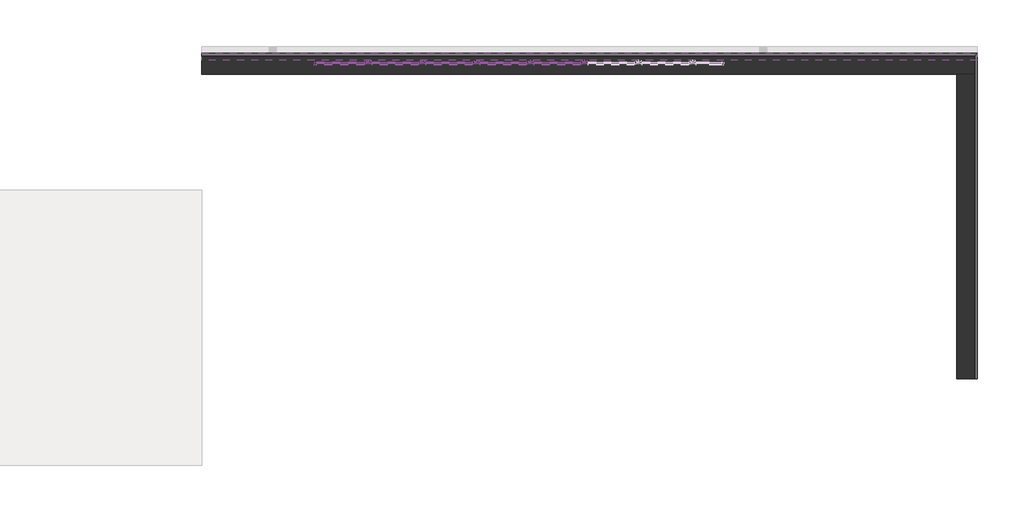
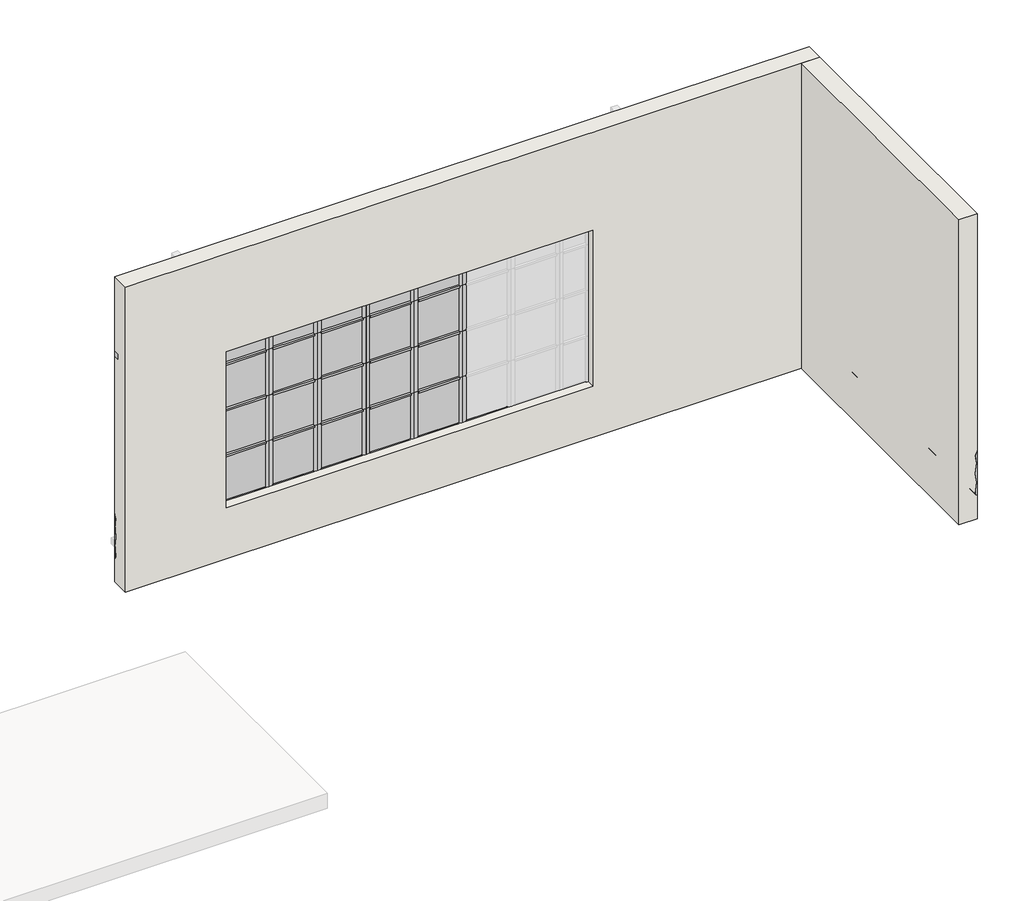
# One storey, part 1 of 2: 50 members, 20 plates, 3 proxies, 2 walls.
"""IFC4 building model written with IfcOpenShell, lengths in millimetres."""

from ifc_helpers import new_model, si_unit, point, frame, frame_2d, origin, place, context, project, spatial, polyline, circle_curve, ellipse_curve, trimmed, segment, composite_curve, outline, extrude, transform, mapped, element, save
from ifc_brep_helpers import plane_surface, cylinder_surface, revolved_surface, advanced_brep
from components import member_019d2a25, member_3923b022, member_f6eef321, member_bfa8bbc5, member_5f8e5638, member_5c61a606, member_4463d2a1, member_90bb8290, plate_2a94339a, plate_97cba745, plate_a68f3988, plate_4467079a, plate_a56ebe65, plate_6a8ce772

model = new_model("IFC4")

# Units and contexts
model_context = context("Model", 3, world=origin())
ifc_project = project(units=[si_unit("LENGTHUNIT", "METRE", prefix="MILLI")], contexts=[model_context])

# Site, building, storey
site = spatial("IfcSite", under=ifc_project)
building = spatial("IfcBuilding", under=site)
storey = spatial("IfcBuildingStorey", under=building, Name="Уровень 1", Elevation=0.0)

# Proxies
placement = place(None, origin())
element("IfcBuildingElementProxy", 1, Name="Врезанный профиль", ObjectType="Врезанный профиль", at=placement, inside=storey, context=model_context, shape_type="SweptSolid", body=[
    extrude(outline(polyline([(-22062.5352251, 8542.2601583), (-22062.5352251, 8694.6601583), (-4832.5352251, 8694.6601583), (-4832.5352251, 8542.2601583), (-22062.5352251, 8542.2601583)])), frame((0.0, 0.0, 5900.0), z_axis=(0.0, 0.0, 1.0), x_axis=(1.0, 0.0, 0.0)), (0.0, 0.0, 1.0), 152.4),
])
element("IfcBuildingElementProxy", 2, Name="Reveals", at=placement, inside=storey, context=model_context, shape_type="AdvancedBrep", body=[
    advanced_brep(
    [(-22062.5352251, 8635.4936017, 1673.1169098), (-22062.5352251, 8694.6601583, 1800.0), (-22062.5352251, 8694.6601583, 600.0), (-22062.5352251, 8641.4373413, 751.8422279), (-22062.5352251, 8670.6636925, 959.7985223), (-22062.5352251, 8631.6103411, 1200.0), (-22062.5352251, 8669.0747224, 1466.5729246), (-4891.7017818, 8635.4936017, 1673.1169098), (-4858.120661, 8669.0747224, 1466.5729246), (-4895.5850423, 8631.6103411, 1200.0), (-4856.5316909, 8670.6636925, 959.7985223), (-4885.7580421, 8641.4373413, 751.8422279), (-4832.5352251, 8694.6601583, 600.0), (-4832.5352251, 8694.6601583, 1800.0)],
    [
        (0, 1),
        (1, 2),
        (2, 3, circle_curve(frame((-22062.5352251, 8783.5560861, 716.4080451), z_axis=(-1.0, 0.0, 0.0), x_axis=(0.0, 1.0, 0.0)), 146.4695154)),
        (3, 4),
        (4, 5),
        (5, 6),
        (6, 0),
        (7, 8),
        (8, 9),
        (9, 10),
        (10, 11),
        (11, 12, ellipse_curve(frame((-4743.6392974, 8783.5560861, 716.4080451), z_axis=(0.7071067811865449, -0.7071067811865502, 0.0), x_axis=(-0.70710678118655, -0.707106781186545, 0.0)), 207.1391751, 146.4695154)),
        (12, 13),
        (13, 7),
        (0, 7),
        (13, 1),
        (12, 2),
        (11, 3),
        (10, 4),
        (9, 5),
        (8, 6),
    ],
    [
        plane_surface(frame((-22062.5352251, 8694.6601583, 600.0), z_axis=(-1.0, 0.0, 0.0), x_axis=(0.0, 1.0, 0.0))),
        plane_surface(frame((-4832.5352251, 8694.6601583, 1504.8), z_axis=(0.7071067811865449, -0.7071067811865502, 0.0), x_axis=(-0.7071067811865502, -0.7071067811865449, 0.0))),
        plane_surface(frame((-22062.5352251, 8635.4936017, 1673.1169098), z_axis=(0.0, -0.9063077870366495, 0.42261826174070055), x_axis=(1.0, 0.0, 0.0))),
        plane_surface(frame((-22062.5352251, 8694.6601583, 1800.0), z_axis=(0.0, 1.0, 0.0), x_axis=(1.0, 0.0, 0.0))),
        cylinder_surface(frame((-22062.5352251, 8783.5560861, 716.4080451), z_axis=(-1.0, 0.0, 0.0), x_axis=(0.0, 1.0, 0.0)), 146.4695154),
        plane_surface(frame((-22062.5352251, 8641.4373413, 751.8422279), z_axis=(0.0, -0.9902680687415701, 0.13917310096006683), x_axis=(1.0, 0.0, 0.0))),
        plane_surface(frame((-22062.5352251, 8670.6636925, 959.7985223), z_axis=(0.0, -0.9870393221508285, -0.16047858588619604), x_axis=(1.0, 0.0, 0.0))),
        plane_surface(frame((-22062.5352251, 8631.6103411, 1200.0), z_axis=(0.0, -0.9902680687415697, 0.13917310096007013), x_axis=(1.0, 0.0, 0.0))),
        plane_surface(frame((-22062.5352251, 8669.0747224, 1466.5729246), z_axis=(0.0, -0.987039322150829, -0.16047858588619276), x_axis=(1.0, 0.0, 0.0))),
    ],
    [
        (0, [[1, 2, 3, 4, 5, 6, 7]]),
        (1, [[8, 9, 10, 11, 12, 13, 14]]),
        (2, [[-1, 15, -14, 16]]),
        (3, [[-2, -16, -13, 17]]),
        (4, [[-3, -17, -12, 18]]),
        (5, [[-4, -18, -11, 19]]),
        (6, [[-5, -19, -10, 20]]),
        (7, [[-6, -20, -9, 21]]),
        (8, [[-7, -21, -8, -15]]),
    ],
),
])
element("IfcBuildingElementProxy", 3, Name="Reveals", at=placement, inside=storey, context=model_context, shape_type="AdvancedBrep", body=[
    advanced_brep(
    [(-4891.7017818, 8635.4936017, 1673.1169098), (-4832.5352251, 8694.6601583, 1800.0), (-4832.5352251, 8694.6601583, 600.0), (-4885.7580421, 8641.4373413, 751.8422279), (-4856.5316909, 8670.6636925, 959.7985223), (-4895.5850423, 8631.6103411, 1200.0), (-4858.120661, 8669.0747224, 1466.5729246), (-4891.7017818, 1464.6601583, 1673.1169098), (-4858.120661, 1464.6601583, 1466.5729246), (-4895.5850423, 1464.6601583, 1200.0), (-4856.5316909, 1464.6601583, 959.7985223), (-4885.7580421, 1464.6601583, 751.8422279), (-4832.5352251, 1464.6601583, 600.0), (-4832.5352251, 1464.6601583, 1800.0)],
    [
        (0, 1),
        (1, 2),
        (2, 3, ellipse_curve(frame((-4743.6392974, 8783.5560861, 716.4080451), z_axis=(-0.7071067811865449, 0.7071067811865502, 0.0), x_axis=(0.7071067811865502, 0.7071067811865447, 0.0)), 207.1391751, 146.4695154)),
        (3, 4),
        (4, 5),
        (5, 6),
        (6, 0),
        (7, 8),
        (8, 9),
        (9, 10),
        (10, 11),
        (11, 12, circle_curve(frame((-4743.6392974, 1464.6601583, 716.4080451), z_axis=(0.0, -1.0, 0.0), x_axis=(1.0, 0.0, 0.0)), 146.4695154)),
        (12, 13),
        (13, 7),
        (0, 7),
        (13, 1),
        (12, 2),
        (11, 3),
        (10, 4),
        (9, 5),
        (8, 6),
    ],
    [
        plane_surface(frame((-4832.5352251, 8694.6601583, 1504.8), z_axis=(-0.7071067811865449, 0.7071067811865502, 0.0), x_axis=(-0.7071067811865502, -0.7071067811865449, 0.0))),
        plane_surface(frame((-5432.5352251, 1464.6601583, 1200.0), z_axis=(0.0, -1.0, 0.0), x_axis=(0.0, 0.0, -1.0))),
        plane_surface(frame((-4891.7017818, 8635.4936017, 1673.1169098), z_axis=(-0.9063077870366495, 0.0, 0.42261826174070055), x_axis=(0.0, -1.0, 0.0))),
        plane_surface(frame((-4832.5352251, 8694.6601583, 1800.0), z_axis=(1.0, 0.0, 0.0), x_axis=(0.0, -1.0, 0.0))),
        cylinder_surface(frame((-4743.6392974, 8694.6601583, 716.4080451), z_axis=(0.0, 1.0, 0.0), x_axis=(1.0, 0.0, 0.0)), 146.4695154),
        plane_surface(frame((-4885.7580421, 8641.4373413, 751.8422279), z_axis=(-0.9902680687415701, 0.0, 0.13917310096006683), x_axis=(0.0, -1.0, 0.0))),
        plane_surface(frame((-4856.5316909, 8670.6636925, 959.7985223), z_axis=(-0.9870393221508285, 0.0, -0.16047858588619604), x_axis=(0.0, -1.0, 0.0))),
        plane_surface(frame((-4895.5850423, 8631.6103411, 1200.0), z_axis=(-0.9902680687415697, 0.0, 0.13917310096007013), x_axis=(0.0, -1.0, 0.0))),
        plane_surface(frame((-4858.120661, 8669.0747224, 1466.5729246), z_axis=(-0.987039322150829, 0.0, -0.16047858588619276), x_axis=(0.0, -1.0, 0.0))),
    ],
    [
        (0, [[1, 2, 3, 4, 5, 6, 7]]),
        (1, [[8, 9, 10, 11, 12, 13, 14]]),
        (2, [[-1, 15, -14, 16]]),
        (3, [[-2, -16, -13, 17]]),
        (4, [[-3, -17, -12, 18]]),
        (5, [[-4, -18, -11, 19]]),
        (6, [[-5, -19, -10, 20]]),
        (7, [[-6, -20, -9, 21]]),
        (8, [[-7, -21, -8, -15]]),
    ],
),
])

# Members
member_shape = member_019d2a25(model_context)
element("IfcMember", 4, ObjectType="Прямоугольный импост : 50 мм x 65 мм", at=placement, inside=storey, context=model_context, shape_type="MappedRepresentation", body=[
    mapped(member_shape, transform((-19562.5352251, 8464.6601583, 2541.6457957), x_axis=(-1.0, 0.0, 0.0), y_axis=(0.0, -1.0, 0.0), z_axis=(0.0, 0.0, 1.0))),
])
element("IfcMember", 5, ObjectType="Прямоугольный импост : 50 мм x 65 мм", at=placement, inside=storey, context=model_context, shape_type="MappedRepresentation", body=[
    mapped(member_shape, transform((-19562.5352251, 8464.6601583, 3741.6457957), x_axis=(-1.0, 0.0, 0.0), y_axis=(0.0, -1.0, 0.0), z_axis=(0.0, 0.0, 1.0))),
])
element("IfcMember", 6, ObjectType="Прямоугольный импост : 50 мм x 65 мм", at=placement, inside=storey, context=model_context, shape_type="MappedRepresentation", body=[
    mapped(member_shape, transform((-19562.5352251, 8464.6601583, 4941.6457957), x_axis=(-1.0, 0.0, 0.0), y_axis=(0.0, -1.0, 0.0), z_axis=(0.0, 0.0, 1.0))),
])
member_2_shape = member_3923b022(model_context)
element("IfcMember", 7, ObjectType="Прямоугольный импост : 50 мм x 65 мм", at=placement, inside=storey, context=model_context, shape_type="MappedRepresentation", body=[
    mapped(member_2_shape, transform((-19562.5352251, 8464.6601583, 5429.8819034), x_axis=(-1.0, 0.0, 0.0), y_axis=(0.0, -1.0, 0.0), z_axis=(0.0, 0.0, 1.0))),
])
member_3_shape = member_f6eef321(model_context)
element("IfcMember", 8, ObjectType="Импост круглого сечения : Радиус 25 мм 2", at=placement, inside=storey, context=model_context, shape_type="MappedRepresentation", body=[
    mapped(member_3_shape, transform((-18362.5352248, 8464.6601583, 1341.6457957), x_axis=(1.0, 0.0, 0.0), y_axis=(0.0, -1.0, 0.0), z_axis=(0.0, 0.0, -1.0))),
])
element("IfcMember", 9, ObjectType="Импост круглого сечения : Радиус 25 мм 2", at=placement, inside=storey, context=model_context, shape_type="MappedRepresentation", body=[
    mapped(member_3_shape, transform((-17162.5352248, 8464.6601583, 1341.6457957), x_axis=(1.0, 0.0, 0.0), y_axis=(0.0, -1.0, 0.0), z_axis=(0.0, 0.0, -1.0))),
])
element("IfcMember", 10, ObjectType="Импост круглого сечения : Радиус 25 мм 2", at=placement, inside=storey, context=model_context, shape_type="MappedRepresentation", body=[
    mapped(member_3_shape, transform((-15962.5352248, 8464.6601583, 1341.6457957), x_axis=(1.0, 0.0, 0.0), y_axis=(0.0, -1.0, 0.0), z_axis=(0.0, 0.0, -1.0))),
])
element("IfcMember", 11, ObjectType="Импост круглого сечения : Радиус 25 мм 2", at=placement, inside=storey, context=model_context, shape_type="MappedRepresentation", body=[
    mapped(member_3_shape, transform((-14762.5352248, 8464.6601583, 1341.6457957), x_axis=(1.0, 0.0, 0.0), y_axis=(0.0, -1.0, 0.0), z_axis=(0.0, 0.0, -1.0))),
])
element("IfcMember", 12, ObjectType="Импост круглого сечения : Радиус 25 мм 2", at=placement, inside=storey, context=model_context, shape_type="MappedRepresentation", body=[
    mapped(member_3_shape, transform((-13562.5352248, 8464.6601583, 1341.6457957), x_axis=(1.0, 0.0, 0.0), y_axis=(0.0, -1.0, 0.0), z_axis=(0.0, 0.0, -1.0))),
])
element("IfcMember", 13, ObjectType="Импост круглого сечения : Радиус 25 мм 2", at=placement, inside=storey, context=model_context, shape_type="MappedRepresentation", body=[
    mapped(member_3_shape, transform((-18362.5352248, 8464.6601583, 2541.6457957), x_axis=(1.0, 0.0, 0.0), y_axis=(0.0, -1.0, 0.0), z_axis=(0.0, 0.0, -1.0))),
])
element("IfcMember", 14, ObjectType="Импост круглого сечения : Радиус 25 мм 2", at=placement, inside=storey, context=model_context, shape_type="MappedRepresentation", body=[
    mapped(member_3_shape, transform((-17162.5352248, 8464.6601583, 2541.6457957), x_axis=(1.0, 0.0, 0.0), y_axis=(0.0, -1.0, 0.0), z_axis=(0.0, 0.0, -1.0))),
])
element("IfcMember", 15, ObjectType="Импост круглого сечения : Радиус 25 мм 2", at=placement, inside=storey, context=model_context, shape_type="MappedRepresentation", body=[
    mapped(member_3_shape, transform((-15962.5352248, 8464.6601583, 2541.6457957), x_axis=(1.0, 0.0, 0.0), y_axis=(0.0, -1.0, 0.0), z_axis=(0.0, 0.0, -1.0))),
])
element("IfcMember", 16, ObjectType="Импост круглого сечения : Радиус 25 мм 2", at=placement, inside=storey, context=model_context, shape_type="MappedRepresentation", body=[
    mapped(member_3_shape, transform((-14762.5352248, 8464.6601583, 2541.6457957), x_axis=(1.0, 0.0, 0.0), y_axis=(0.0, -1.0, 0.0), z_axis=(0.0, 0.0, -1.0))),
])
element("IfcMember", 17, ObjectType="Импост круглого сечения : Радиус 25 мм 2", at=placement, inside=storey, context=model_context, shape_type="MappedRepresentation", body=[
    mapped(member_3_shape, transform((-13562.5352248, 8464.6601583, 2541.6457957), x_axis=(1.0, 0.0, 0.0), y_axis=(0.0, -1.0, 0.0), z_axis=(0.0, 0.0, -1.0))),
])
element("IfcMember", 18, ObjectType="Импост круглого сечения : Радиус 25 мм 2", at=placement, inside=storey, context=model_context, shape_type="MappedRepresentation", body=[
    mapped(member_3_shape, transform((-18362.5352248, 8464.6601583, 3741.6457957), x_axis=(1.0, 0.0, 0.0), y_axis=(0.0, -1.0, 0.0), z_axis=(0.0, 0.0, -1.0))),
])
element("IfcMember", 19, ObjectType="Импост круглого сечения : Радиус 25 мм 2", at=placement, inside=storey, context=model_context, shape_type="MappedRepresentation", body=[
    mapped(member_3_shape, transform((-17162.5352248, 8464.6601583, 3741.6457957), x_axis=(1.0, 0.0, 0.0), y_axis=(0.0, -1.0, 0.0), z_axis=(0.0, 0.0, -1.0))),
])
element("IfcMember", 20, ObjectType="Импост круглого сечения : Радиус 25 мм 2", at=placement, inside=storey, context=model_context, shape_type="MappedRepresentation", body=[
    mapped(member_3_shape, transform((-15962.5352248, 8464.6601583, 3741.6457957), x_axis=(1.0, 0.0, 0.0), y_axis=(0.0, -1.0, 0.0), z_axis=(0.0, 0.0, -1.0))),
])
element("IfcMember", 21, ObjectType="Импост круглого сечения : Радиус 25 мм 2", at=placement, inside=storey, context=model_context, shape_type="MappedRepresentation", body=[
    mapped(member_3_shape, transform((-14762.5352248, 8464.6601583, 3741.6457957), x_axis=(1.0, 0.0, 0.0), y_axis=(0.0, -1.0, 0.0), z_axis=(0.0, 0.0, -1.0))),
])
element("IfcMember", 22, ObjectType="Импост круглого сечения : Радиус 25 мм 2", at=placement, inside=storey, context=model_context, shape_type="MappedRepresentation", body=[
    mapped(member_3_shape, transform((-13562.5352248, 8464.6601583, 3741.6457957), x_axis=(1.0, 0.0, 0.0), y_axis=(0.0, -1.0, 0.0), z_axis=(0.0, 0.0, -1.0))),
])
member_4_shape = member_bfa8bbc5(model_context)
element("IfcMember", 23, ObjectType="Импост круглого сечения : Радиус 25 мм 2", at=placement, inside=storey, context=model_context, shape_type="MappedRepresentation", body=[
    mapped(member_4_shape, transform((-18362.5352248, 8464.6601583, 4941.6457957), x_axis=(1.0, 0.0, 0.0), y_axis=(0.0, -1.0, 0.0), z_axis=(0.0, 0.0, -1.0))),
])
element("IfcMember", 24, ObjectType="Импост круглого сечения : Радиус 25 мм 2", at=placement, inside=storey, context=model_context, shape_type="MappedRepresentation", body=[
    mapped(member_4_shape, transform((-17162.5352248, 8464.6601583, 4941.6457957), x_axis=(1.0, 0.0, 0.0), y_axis=(0.0, -1.0, 0.0), z_axis=(0.0, 0.0, -1.0))),
])
element("IfcMember", 25, ObjectType="Импост круглого сечения : Радиус 25 мм 2", at=placement, inside=storey, context=model_context, shape_type="MappedRepresentation", body=[
    mapped(member_4_shape, transform((-15962.5352248, 8464.6601583, 4941.6457957), x_axis=(1.0, 0.0, 0.0), y_axis=(0.0, -1.0, 0.0), z_axis=(0.0, 0.0, -1.0))),
])
element("IfcMember", 26, ObjectType="Импост круглого сечения : Радиус 25 мм 2", at=placement, inside=storey, context=model_context, shape_type="MappedRepresentation", body=[
    mapped(member_4_shape, transform((-14762.5352248, 8464.6601583, 4941.6457957), x_axis=(1.0, 0.0, 0.0), y_axis=(0.0, -1.0, 0.0), z_axis=(0.0, 0.0, -1.0))),
])
element("IfcMember", 27, ObjectType="Импост круглого сечения : Радиус 25 мм 2", at=placement, inside=storey, context=model_context, shape_type="MappedRepresentation", body=[
    mapped(member_4_shape, transform((-13562.5352248, 8464.6601583, 4941.6457957), x_axis=(1.0, 0.0, 0.0), y_axis=(0.0, -1.0, 0.0), z_axis=(0.0, 0.0, -1.0))),
])
member_5_shape = member_5f8e5638(model_context)
element("IfcMember", 28, ObjectType="Импост круглого сечения : Радиус 25 мм", at=placement, inside=storey, context=model_context, shape_type="MappedRepresentation", body=[
    mapped(member_5_shape, transform((-18449.8835041, 8464.6601583, 5429.8819034), x_axis=(0.0, 0.0, 1.0), y_axis=(0.0, -1.0, 0.0), z_axis=(1.0, 0.0, 0.0))),
])
member_6_shape = member_5c61a606(model_context)
element("IfcMember", 29, ObjectType="Импост круглого сечения : Радиус 25 мм", at=placement, inside=storey, context=model_context, shape_type="MappedRepresentation", body=[
    mapped(member_6_shape, transform((-17249.8835041, 8464.6601583, 5429.8819034), x_axis=(0.0, 0.0, 1.0), y_axis=(0.0, -1.0, 0.0), z_axis=(1.0, 0.0, 0.0))),
])
element("IfcMember", 30, ObjectType="Импост круглого сечения : Радиус 25 мм", at=placement, inside=storey, context=model_context, shape_type="MappedRepresentation", body=[
    mapped(member_6_shape, transform((-16049.8835041, 8464.6601583, 5429.8819034), x_axis=(0.0, 0.0, 1.0), y_axis=(0.0, -1.0, 0.0), z_axis=(1.0, 0.0, 0.0))),
])
element("IfcMember", 31, ObjectType="Импост круглого сечения : Радиус 25 мм", at=placement, inside=storey, context=model_context, shape_type="MappedRepresentation", body=[
    mapped(member_6_shape, transform((-14849.8835041, 8464.6601583, 5429.8819034), x_axis=(0.0, 0.0, 1.0), y_axis=(0.0, -1.0, 0.0), z_axis=(1.0, 0.0, 0.0))),
])
element("IfcMember", 32, ObjectType="Импост круглого сечения : Радиус 25 мм", at=placement, inside=storey, context=model_context, shape_type="MappedRepresentation", body=[
    mapped(member_6_shape, transform((-13649.8835041, 8464.6601583, 5429.8819034), x_axis=(0.0, 0.0, 1.0), y_axis=(0.0, -1.0, 0.0), z_axis=(1.0, 0.0, 0.0))),
])
element("IfcMember", 33, ObjectType="Импост круглого сечения : Радиус 25 мм", at=placement, inside=storey, context=model_context, shape_type="MappedRepresentation", body=[
    mapped(member_5_shape, transform((-19512.5352251, 8464.6601583, 1341.6457957), x_axis=(0.0, 0.0, -1.0), y_axis=(0.0, -1.0, 0.0), z_axis=(-1.0, 0.0, 0.0))),
])
element("IfcMember", 34, ObjectType="Импост круглого сечения : Радиус 25 мм", at=placement, inside=storey, context=model_context, shape_type="MappedRepresentation", body=[
    mapped(member_6_shape, transform((-18275.1869455, 8464.6601583, 1341.6457957), x_axis=(0.0, 0.0, -1.0), y_axis=(0.0, -1.0, 0.0), z_axis=(-1.0, 0.0, 0.0))),
])
element("IfcMember", 35, ObjectType="Импост круглого сечения : Радиус 25 мм", at=placement, inside=storey, context=model_context, shape_type="MappedRepresentation", body=[
    mapped(member_6_shape, transform((-17075.1869455, 8464.6601583, 1341.6457957), x_axis=(0.0, 0.0, -1.0), y_axis=(0.0, -1.0, 0.0), z_axis=(-1.0, 0.0, 0.0))),
])
element("IfcMember", 36, ObjectType="Импост круглого сечения : Радиус 25 мм", at=placement, inside=storey, context=model_context, shape_type="MappedRepresentation", body=[
    mapped(member_6_shape, transform((-15875.1869455, 8464.6601583, 1341.6457957), x_axis=(0.0, 0.0, -1.0), y_axis=(0.0, -1.0, 0.0), z_axis=(-1.0, 0.0, 0.0))),
])
element("IfcMember", 37, ObjectType="Импост круглого сечения : Радиус 25 мм", at=placement, inside=storey, context=model_context, shape_type="MappedRepresentation", body=[
    mapped(member_6_shape, transform((-14675.1869455, 8464.6601583, 1341.6457957), x_axis=(0.0, 0.0, -1.0), y_axis=(0.0, -1.0, 0.0), z_axis=(-1.0, 0.0, 0.0))),
])
element("IfcMember", 38, ObjectType="Импост круглого сечения : Радиус 25 мм", at=placement, inside=storey, context=model_context, shape_type="MappedRepresentation", body=[
    mapped(member_6_shape, transform((-13475.1869455, 8464.6601583, 1341.6457957), x_axis=(0.0, 0.0, -1.0), y_axis=(0.0, -1.0, 0.0), z_axis=(-1.0, 0.0, 0.0))),
])
member_7_shape = member_4463d2a1(model_context)
element("IfcMember", 39, ObjectType="Прямоугольный импост : 50 мм x 65 мм", at=placement, inside=storey, context=model_context, shape_type="MappedRepresentation", body=[
    mapped(member_7_shape, transform((-18449.8835041, 8464.6601583, 2541.6457957), x_axis=(0.0, 0.0, 1.0), y_axis=(0.0, -1.0, 0.0), z_axis=(1.0, 0.0, 0.0))),
])
element("IfcMember", 40, ObjectType="Прямоугольный импост : 50 мм x 65 мм", at=placement, inside=storey, context=model_context, shape_type="MappedRepresentation", body=[
    mapped(member_7_shape, transform((-18449.8835041, 8464.6601583, 3741.6457957), x_axis=(0.0, 0.0, 1.0), y_axis=(0.0, -1.0, 0.0), z_axis=(1.0, 0.0, 0.0))),
])
element("IfcMember", 41, ObjectType="Прямоугольный импост : 50 мм x 65 мм", at=placement, inside=storey, context=model_context, shape_type="MappedRepresentation", body=[
    mapped(member_7_shape, transform((-18449.8835041, 8464.6601583, 4941.6457957), x_axis=(0.0, 0.0, 1.0), y_axis=(0.0, -1.0, 0.0), z_axis=(1.0, 0.0, 0.0))),
])
member_8_shape = member_90bb8290(model_context)
element("IfcMember", 42, ObjectType="Прямоугольный импост : 50 мм x 65 мм", at=placement, inside=storey, context=model_context, shape_type="MappedRepresentation", body=[
    mapped(member_8_shape, transform((-17249.8835041, 8464.6601583, 2541.6457957), x_axis=(0.0, 0.0, 1.0), y_axis=(0.0, -1.0, 0.0), z_axis=(1.0, 0.0, 0.0))),
])
element("IfcMember", 43, ObjectType="Прямоугольный импост : 50 мм x 65 мм", at=placement, inside=storey, context=model_context, shape_type="MappedRepresentation", body=[
    mapped(member_8_shape, transform((-16049.8835041, 8464.6601583, 2541.6457957), x_axis=(0.0, 0.0, 1.0), y_axis=(0.0, -1.0, 0.0), z_axis=(1.0, 0.0, 0.0))),
])
element("IfcMember", 44, ObjectType="Прямоугольный импост : 50 мм x 65 мм", at=placement, inside=storey, context=model_context, shape_type="MappedRepresentation", body=[
    mapped(member_8_shape, transform((-14849.8835041, 8464.6601583, 2541.6457957), x_axis=(0.0, 0.0, 1.0), y_axis=(0.0, -1.0, 0.0), z_axis=(1.0, 0.0, 0.0))),
])
element("IfcMember", 45, ObjectType="Прямоугольный импост : 50 мм x 65 мм", at=placement, inside=storey, context=model_context, shape_type="MappedRepresentation", body=[
    mapped(member_8_shape, transform((-13649.8835041, 8464.6601583, 2541.6457957), x_axis=(0.0, 0.0, 1.0), y_axis=(0.0, -1.0, 0.0), z_axis=(1.0, 0.0, 0.0))),
])
element("IfcMember", 46, ObjectType="Прямоугольный импост : 50 мм x 65 мм", at=placement, inside=storey, context=model_context, shape_type="MappedRepresentation", body=[
    mapped(member_8_shape, transform((-17249.8835041, 8464.6601583, 3741.6457957), x_axis=(0.0, 0.0, 1.0), y_axis=(0.0, -1.0, 0.0), z_axis=(1.0, 0.0, 0.0))),
])
element("IfcMember", 47, ObjectType="Прямоугольный импост : 50 мм x 65 мм", at=placement, inside=storey, context=model_context, shape_type="MappedRepresentation", body=[
    mapped(member_8_shape, transform((-16049.8835041, 8464.6601583, 3741.6457957), x_axis=(0.0, 0.0, 1.0), y_axis=(0.0, -1.0, 0.0), z_axis=(1.0, 0.0, 0.0))),
])
element("IfcMember", 48, ObjectType="Прямоугольный импост : 50 мм x 65 мм", at=placement, inside=storey, context=model_context, shape_type="MappedRepresentation", body=[
    mapped(member_8_shape, transform((-14849.8835041, 8464.6601583, 3741.6457957), x_axis=(0.0, 0.0, 1.0), y_axis=(0.0, -1.0, 0.0), z_axis=(1.0, 0.0, 0.0))),
])
element("IfcMember", 49, ObjectType="Прямоугольный импост : 50 мм x 65 мм", at=placement, inside=storey, context=model_context, shape_type="MappedRepresentation", body=[
    mapped(member_8_shape, transform((-13649.8835041, 8464.6601583, 3741.6457957), x_axis=(0.0, 0.0, 1.0), y_axis=(0.0, -1.0, 0.0), z_axis=(1.0, 0.0, 0.0))),
])
element("IfcMember", 50, ObjectType="Прямоугольный импост : 50 мм x 65 мм", at=placement, inside=storey, context=model_context, shape_type="MappedRepresentation", body=[
    mapped(member_8_shape, transform((-17249.8835041, 8464.6601583, 4941.6457957), x_axis=(0.0, 0.0, 1.0), y_axis=(0.0, -1.0, 0.0), z_axis=(1.0, 0.0, 0.0))),
])
element("IfcMember", 51, ObjectType="Прямоугольный импост : 50 мм x 65 мм", at=placement, inside=storey, context=model_context, shape_type="MappedRepresentation", body=[
    mapped(member_8_shape, transform((-16049.8835041, 8464.6601583, 4941.6457957), x_axis=(0.0, 0.0, 1.0), y_axis=(0.0, -1.0, 0.0), z_axis=(1.0, 0.0, 0.0))),
])
element("IfcMember", 52, ObjectType="Прямоугольный импост : 50 мм x 65 мм", at=placement, inside=storey, context=model_context, shape_type="MappedRepresentation", body=[
    mapped(member_8_shape, transform((-14849.8835041, 8464.6601583, 4941.6457957), x_axis=(0.0, 0.0, 1.0), y_axis=(0.0, -1.0, 0.0), z_axis=(1.0, 0.0, 0.0))),
])
element("IfcMember", 53, ObjectType="Прямоугольный импост : 50 мм x 65 мм", at=placement, inside=storey, context=model_context, shape_type="MappedRepresentation", body=[
    mapped(member_8_shape, transform((-13649.8835041, 8464.6601583, 4941.6457957), x_axis=(0.0, 0.0, 1.0), y_axis=(0.0, -1.0, 0.0), z_axis=(1.0, 0.0, 0.0))),
])

# Plates
plate_shape = plate_2a94339a(model_context)
element("IfcPlate", 54, ObjectType="Системная панель : С остеклением", at=placement, inside=storey, context=model_context, shape_type="MappedRepresentation", body=[
    mapped(plate_shape, transform((-18981.2093646, 8464.6601583, 1341.6457957), x_axis=(1.0, 0.0, 0.0), y_axis=(0.0, 1.0, 0.0), z_axis=(0.0, 0.0, 1.0))),
])
plate_2_shape = plate_97cba745(model_context)
element("IfcPlate", 55, ObjectType="Системная панель : С остеклением", at=placement, inside=storey, context=model_context, shape_type="MappedRepresentation", body=[
    mapped(plate_2_shape, transform((-17762.5352248, 8464.6601583, 1341.6457957), x_axis=(1.0, 0.0, 0.0), y_axis=(0.0, 1.0, 0.0), z_axis=(0.0, 0.0, 1.0))),
])
element("IfcPlate", 56, ObjectType="Системная панель : С остеклением", at=placement, inside=storey, context=model_context, shape_type="MappedRepresentation", body=[
    mapped(plate_2_shape, transform((-16562.5352248, 8464.6601583, 1341.6457957), x_axis=(1.0, 0.0, 0.0), y_axis=(0.0, 1.0, 0.0), z_axis=(0.0, 0.0, 1.0))),
])
element("IfcPlate", 57, ObjectType="Системная панель : С остеклением", at=placement, inside=storey, context=model_context, shape_type="MappedRepresentation", body=[
    mapped(plate_2_shape, transform((-15362.5352248, 8464.6601583, 1341.6457957), x_axis=(1.0, 0.0, 0.0), y_axis=(0.0, 1.0, 0.0), z_axis=(0.0, 0.0, 1.0))),
])
element("IfcPlate", 58, ObjectType="Системная панель : С остеклением", at=placement, inside=storey, context=model_context, shape_type="MappedRepresentation", body=[
    mapped(plate_2_shape, transform((-14162.5352248, 8464.6601583, 1341.6457957), x_axis=(1.0, 0.0, 0.0), y_axis=(0.0, 1.0, 0.0), z_axis=(0.0, 0.0, 1.0))),
])
plate_3_shape = plate_a68f3988(model_context)
element("IfcPlate", 59, ObjectType="Системная панель : С остеклением", at=placement, inside=storey, context=model_context, shape_type="MappedRepresentation", body=[
    mapped(plate_3_shape, transform((-18981.2093646, 8464.6601583, 2566.6457957), x_axis=(1.0, 0.0, 0.0), y_axis=(0.0, 1.0, 0.0), z_axis=(0.0, 0.0, 1.0))),
])
element("IfcPlate", 60, ObjectType="Системная панель : С остеклением", at=placement, inside=storey, context=model_context, shape_type="MappedRepresentation", body=[
    mapped(plate_3_shape, transform((-18981.2093646, 8464.6601583, 3766.6457957), x_axis=(1.0, 0.0, 0.0), y_axis=(0.0, 1.0, 0.0), z_axis=(0.0, 0.0, 1.0))),
])
plate_4_shape = plate_4467079a(model_context)
element("IfcPlate", 61, ObjectType="Системная панель : С остеклением", at=placement, inside=storey, context=model_context, shape_type="MappedRepresentation", body=[
    mapped(plate_4_shape, transform((-17762.5352248, 8464.6601583, 2566.6457957), x_axis=(1.0, 0.0, 0.0), y_axis=(0.0, 1.0, 0.0), z_axis=(0.0, 0.0, 1.0))),
])
element("IfcPlate", 62, ObjectType="Системная панель : С остеклением", at=placement, inside=storey, context=model_context, shape_type="MappedRepresentation", body=[
    mapped(plate_4_shape, transform((-16562.5352248, 8464.6601583, 2566.6457957), x_axis=(1.0, 0.0, 0.0), y_axis=(0.0, 1.0, 0.0), z_axis=(0.0, 0.0, 1.0))),
])
element("IfcPlate", 63, ObjectType="Системная панель : С остеклением", at=placement, inside=storey, context=model_context, shape_type="MappedRepresentation", body=[
    mapped(plate_4_shape, transform((-15362.5352248, 8464.6601583, 2566.6457957), x_axis=(1.0, 0.0, 0.0), y_axis=(0.0, 1.0, 0.0), z_axis=(0.0, 0.0, 1.0))),
])
element("IfcPlate", 64, ObjectType="Системная панель : С остеклением", at=placement, inside=storey, context=model_context, shape_type="MappedRepresentation", body=[
    mapped(plate_4_shape, transform((-14162.5352248, 8464.6601583, 2566.6457957), x_axis=(1.0, 0.0, 0.0), y_axis=(0.0, 1.0, 0.0), z_axis=(0.0, 0.0, 1.0))),
])
element("IfcPlate", 65, ObjectType="Системная панель : С остеклением", at=placement, inside=storey, context=model_context, shape_type="MappedRepresentation", body=[
    mapped(plate_4_shape, transform((-17762.5352248, 8464.6601583, 3766.6457957), x_axis=(1.0, 0.0, 0.0), y_axis=(0.0, 1.0, 0.0), z_axis=(0.0, 0.0, 1.0))),
])
element("IfcPlate", 66, ObjectType="Системная панель : С остеклением", at=placement, inside=storey, context=model_context, shape_type="MappedRepresentation", body=[
    mapped(plate_4_shape, transform((-16562.5352248, 8464.6601583, 3766.6457957), x_axis=(1.0, 0.0, 0.0), y_axis=(0.0, 1.0, 0.0), z_axis=(0.0, 0.0, 1.0))),
])
element("IfcPlate", 67, ObjectType="Системная панель : С остеклением", at=placement, inside=storey, context=model_context, shape_type="MappedRepresentation", body=[
    mapped(plate_4_shape, transform((-15362.5352248, 8464.6601583, 3766.6457957), x_axis=(1.0, 0.0, 0.0), y_axis=(0.0, 1.0, 0.0), z_axis=(0.0, 0.0, 1.0))),
])
element("IfcPlate", 68, ObjectType="Системная панель : С остеклением", at=placement, inside=storey, context=model_context, shape_type="MappedRepresentation", body=[
    mapped(plate_4_shape, transform((-14162.5352248, 8464.6601583, 3766.6457957), x_axis=(1.0, 0.0, 0.0), y_axis=(0.0, 1.0, 0.0), z_axis=(0.0, 0.0, 1.0))),
])
plate_5_shape = plate_a56ebe65(model_context)
element("IfcPlate", 69, ObjectType="Системная панель : С остеклением", at=placement, inside=storey, context=model_context, shape_type="MappedRepresentation", body=[
    mapped(plate_5_shape, transform((-18981.2093646, 8464.6601583, 4966.6457957), x_axis=(1.0, 0.0, 0.0), y_axis=(0.0, 1.0, 0.0), z_axis=(0.0, 0.0, 1.0))),
])
plate_6_shape = plate_6a8ce772(model_context)
element("IfcPlate", 70, ObjectType="Системная панель : С остеклением", at=placement, inside=storey, context=model_context, shape_type="MappedRepresentation", body=[
    mapped(plate_6_shape, transform((-17762.5352248, 8464.6601583, 4966.6457957), x_axis=(1.0, 0.0, 0.0), y_axis=(0.0, 1.0, 0.0), z_axis=(0.0, 0.0, 1.0))),
])
element("IfcPlate", 71, ObjectType="Системная панель : С остеклением", at=placement, inside=storey, context=model_context, shape_type="MappedRepresentation", body=[
    mapped(plate_6_shape, transform((-16562.5352248, 8464.6601583, 4966.6457957), x_axis=(1.0, 0.0, 0.0), y_axis=(0.0, 1.0, 0.0), z_axis=(0.0, 0.0, 1.0))),
])
element("IfcPlate", 72, ObjectType="Системная панель : С остеклением", at=placement, inside=storey, context=model_context, shape_type="MappedRepresentation", body=[
    mapped(plate_6_shape, transform((-15362.5352248, 8464.6601583, 4966.6457957), x_axis=(1.0, 0.0, 0.0), y_axis=(0.0, 1.0, 0.0), z_axis=(0.0, 0.0, 1.0))),
])
element("IfcPlate", 73, ObjectType="Системная панель : С остеклением", at=placement, inside=storey, context=model_context, shape_type="MappedRepresentation", body=[
    mapped(plate_6_shape, transform((-14162.5352248, 8464.6601583, 4966.6457957), x_axis=(1.0, 0.0, 0.0), y_axis=(0.0, 1.0, 0.0), z_axis=(0.0, 0.0, 1.0))),
])

# Walls
element("IfcWall", 74, ObjectType="Наружный - Блок на металлической обрешетке", at=placement, inside=storey, context=model_context, shape_type="AdvancedBrep", body=[
    advanced_brep(
    [(-22062.5352251, 8234.6601583, 0.0), (-5292.5352251, 8234.6601583, 0.0), (-4832.5352251, 8234.6601583, 0.0), (-4832.5352251, 8234.6601583, 600.0), (-4885.7580421, 8234.6601583, 751.8422279), (-4856.5316909, 8234.6601583, 959.7985223), (-4895.5850423, 8234.6601583, 1200.0), (-4858.120661, 8234.6601583, 1466.5729246), (-4891.7017818, 8234.6601583, 1673.1169098), (-4832.5352251, 8234.6601583, 1800.0), (-4832.5352251, 8234.6601583, 8000.0), (-5292.5352251, 8234.6601583, 8000.0), (-22062.5352251, 8234.6601583, 8000.0), (-19562.5352251, 8234.6601583, 1341.6457957), (-19562.5352251, 8234.6601583, 5429.8819034), (-10462.5352251, 8234.6601583, 5429.8819034), (-10462.5352251, 8234.6601583, 1341.6457957), (-4832.5352251, 8694.6601583, 0.0), (-22062.5352251, 8694.6601583, 0.0), (-22062.5352251, 8694.6601583, 600.0), (-4832.5352251, 8694.6601583, 600.0), (-22062.5352251, 8694.6601583, 8000.0), (-4832.5352251, 8694.6601583, 8000.0), (-4832.5352251, 8694.6601583, 6052.4), (-22062.5352251, 8694.6601583, 6052.4), (-10462.5352251, 8694.6601583, 5429.8819034), (-19562.5352251, 8694.6601583, 5429.8819034), (-19562.5352251, 8694.6601583, 1800.0), (-22062.5352251, 8694.6601583, 1800.0), (-22062.5352251, 8694.6601583, 5900.0), (-4832.5352251, 8694.6601583, 5900.0), (-4832.5352251, 8694.6601583, 1800.0), (-10462.5352251, 8694.6601583, 1800.0), (-22062.5352251, 8542.2601583, 6052.4), (-22062.5352251, 8542.2601583, 5900.0), (-22062.5352251, 8635.4936017, 1673.1169098), (-22062.5352251, 8669.0747224, 1466.5729246), (-22062.5352251, 8631.6103411, 1200.0), (-22062.5352251, 8670.6636925, 959.7985223), (-22062.5352251, 8641.4373413, 751.8422279), (-4832.5352251, 8542.2601583, 5900.0), (-4832.5352251, 8542.2601583, 6052.4), (-19562.5352251, 8651.5173595, 1341.6457957), (-19562.5352251, 8669.0747224, 1466.5729246), (-19562.5352251, 8635.4936017, 1673.1169098), (-10462.5352251, 8635.4936017, 1673.1169098), (-10462.5352251, 8669.0747224, 1466.5729246), (-10462.5352251, 8651.5173595, 1341.6457957), (-4891.7017818, 8635.4936017, 1673.1169098), (-4885.7580421, 8641.4373413, 751.8422279), (-4856.5316909, 8670.6636925, 959.7985223), (-4895.5850423, 8631.6103411, 1200.0), (-4858.120661, 8669.0747224, 1466.5729246)],
    [
        (0, 1),
        (1, 2),
        (2, 3),
        (3, 4, circle_curve(frame((-4743.6392974, 8234.6601583, 716.4080451), z_axis=(0.0, 1.0, 0.0), x_axis=(1.0, 0.0, 0.0)), 146.4695154)),
        (4, 5),
        (5, 6),
        (6, 7),
        (7, 8),
        (8, 9),
        (9, 10),
        (10, 11),
        (11, 12),
        (12, 0),
        (13, 14),
        (14, 15),
        (15, 16),
        (16, 13),
        (17, 18),
        (18, 19),
        (19, 20),
        (20, 17),
        (21, 22),
        (22, 23),
        (23, 24),
        (24, 21),
        (25, 26),
        (26, 27),
        (27, 28),
        (28, 29),
        (29, 30),
        (30, 31),
        (31, 32),
        (32, 25),
        (0, 18),
        (17, 2),
        (10, 22),
        (21, 12),
        (24, 33),
        (33, 34),
        (34, 29),
        (28, 35),
        (35, 36),
        (36, 37),
        (37, 38),
        (38, 39),
        (39, 19, circle_curve(frame((-22062.5352251, 8783.5560861, 716.4080451), z_axis=(1.0, 0.0, 0.0), x_axis=(0.0, 1.0, 0.0)), 146.4695154)),
        (20, 3),
        (9, 31),
        (30, 40),
        (40, 41),
        (41, 23),
        (26, 14),
        (13, 42),
        (42, 43),
        (43, 44),
        (44, 27),
        (25, 15),
        (32, 45),
        (45, 46),
        (46, 47),
        (47, 16),
        (47, 42),
        (34, 40),
        (33, 41),
        (31, 48),
        (48, 45),
        (44, 35),
        (49, 20, ellipse_curve(frame((-4743.6392974, 8783.5560861, 716.4080451), z_axis=(0.7071067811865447, -0.7071067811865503, 0.0), x_axis=(-0.7071067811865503, -0.7071067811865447, 0.0)), 207.1391751, 146.4695154)),
        (39, 49),
        (38, 50),
        (50, 49),
        (37, 51),
        (51, 50),
        (36, 43),
        (46, 52),
        (52, 51),
        (48, 52),
        (8, 48),
        (49, 4),
        (50, 5),
        (51, 6),
        (52, 7),
    ],
    [
        plane_surface(frame((-22062.5352251, 8234.6601583, 0.0), z_axis=(0.0, -1.0, 0.0), x_axis=(1.0, 0.0, 0.0))),
        plane_surface(frame((-22062.5352251, 8694.6601583, 0.0), z_axis=(0.0, 1.0, 0.0), x_axis=(-1.0, 0.0, 0.0))),
        plane_surface(frame((-22062.5352251, 8234.6601583, 0.0), z_axis=(0.0, 0.0, -1.0), x_axis=(0.0, 1.0, 0.0))),
        plane_surface(frame((-5062.5352251, 8234.6601583, 8000.0), z_axis=(0.0, 0.0, 1.0), x_axis=(0.0, 1.0, 0.0))),
        plane_surface(frame((-22062.5352251, 8234.6601583, 8000.0), z_axis=(-1.0, 0.0, 0.0), x_axis=(0.0, 1.0, 0.0))),
        plane_surface(frame((-4832.5352251, 8464.6601583, 0.0), z_axis=(1.0, 0.0, 0.0), x_axis=(0.0, 1.0, 0.0))),
        plane_surface(frame((-19562.5352251, 8847.0601583, 1341.6457957), z_axis=(1.0, 0.0, 0.0), x_axis=(0.0, -1.0, 0.0))),
        plane_surface(frame((-19562.5352251, 8847.0601583, 5429.8819034), z_axis=(0.0, 0.0, -1.0), x_axis=(0.0, -1.0, 0.0))),
        plane_surface(frame((-10462.5352251, 8847.0601583, 5429.8819034), z_axis=(-1.0, 0.0, 0.0), x_axis=(0.0, -1.0, 0.0))),
        plane_surface(frame((-10462.5352251, 8847.0601583, 1341.6457957), z_axis=(0.0, 0.0, 1.0), x_axis=(0.0, -1.0, 0.0))),
        plane_surface(frame((-22062.5352251, 8694.6601583, 5900.0), z_axis=(0.0, 0.0, 1.0), x_axis=(1.0, 0.0, 0.0))),
        plane_surface(frame((-22062.5352251, 8542.2601583, 5900.0), z_axis=(0.0, 1.0, 0.0), x_axis=(1.0, 0.0, 0.0))),
        plane_surface(frame((-22062.5352251, 8542.2601583, 6052.4), z_axis=(0.0, 0.0, -1.0), x_axis=(1.0, 0.0, 0.0))),
        plane_surface(frame((-22062.5352251, 8635.4936017, 1673.1169098), z_axis=(0.0, 0.9063077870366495, -0.42261826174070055), x_axis=(1.0, 0.0, 0.0))),
        revolved_surface(polyline([(-22062.5352251, 8930.0256015, 716.4080451), (-4597.169782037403, 8930.0256015, 716.4080451)]), (-22062.5352251, 8783.5560861, 716.4080451), (-1.0, 0.0, 0.0)),
        plane_surface(frame((-22062.5352251, 8641.4373413, 751.8422279), z_axis=(0.0, 0.9902680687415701, -0.13917310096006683), x_axis=(1.0, 0.0, 0.0))),
        plane_surface(frame((-22062.5352251, 8670.6636925, 959.7985223), z_axis=(0.0, 0.9870393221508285, 0.16047858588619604), x_axis=(1.0, 0.0, 0.0))),
        plane_surface(frame((-22062.5352251, 8631.6103411, 1200.0), z_axis=(0.0, 0.9902680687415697, -0.13917310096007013), x_axis=(1.0, 0.0, 0.0))),
        plane_surface(frame((-22062.5352251, 8669.0747224, 1466.5729246), z_axis=(0.0, 0.987039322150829, 0.16047858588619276), x_axis=(1.0, 0.0, 0.0))),
        plane_surface(frame((-4891.7017818, 8635.4936017, 1673.1169098), z_axis=(0.9063077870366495, 0.0, -0.42261826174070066), x_axis=(0.0, -1.0, 0.0))),
        revolved_surface(polyline([(-4597.169782, 8930.025601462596, 716.4080451), (-4597.169782, 8234.6601583, 716.4080451)]), (-4743.6392974, 8694.6601583, 716.4080451), (0.0, 1.0, 0.0)),
        plane_surface(frame((-4885.7580421, 8641.4373413, 751.8422279), z_axis=(0.9902680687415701, 0.0, -0.13917310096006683), x_axis=(0.0, -1.0, 0.0))),
        plane_surface(frame((-4856.5316909, 8670.6636925, 959.7985223), z_axis=(0.9870393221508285, 0.0, 0.1604785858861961), x_axis=(0.0, -1.0, 0.0))),
        plane_surface(frame((-4895.5850423, 8631.6103411, 1200.0), z_axis=(0.9902680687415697, 0.0, -0.13917310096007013), x_axis=(0.0, -1.0, 0.0))),
        plane_surface(frame((-4858.120661, 8669.0747224, 1466.5729246), z_axis=(0.987039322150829, 0.0, 0.16047858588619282), x_axis=(0.0, -1.0, 0.0))),
    ],
    [
        (0, [[1, 2, 3, 4, 5, 6, 7, 8, 9, 10, 11, 12, 13], [14, 15, 16, 17]]),
        (1, [[18, 19, 20, 21]]),
        (1, [[22, 23, 24, 25]]),
        (1, [[26, 27, 28, 29, 30, 31, 32, 33]]),
        (2, [[-2, -1, 34, -18, 35]]),
        (3, [[-12, -11, 36, -22, 37]]),
        (4, [[-13, -37, -25, 38, 39, 40, -29, 41, 42, 43, 44, 45, 46, -19, -34]]),
        (5, [[-35, -21, 47, -3]]),
        (5, [[-36, -10, 48, -31, 49, 50, 51, -23]]),
        (6, [[52, -14, 53, 54, 55, 56, -27]]),
        (7, [[-52, -26, 57, -15]]),
        (8, [[-57, -33, 58, 59, 60, 61, -16]]),
        (9, [[-17, -61, 62, -53]]),
        (10, [[63, -49, -30, -40]]),
        (11, [[-63, -39, 64, -50]]),
        (12, [[-64, -38, -24, -51]]),
        (13, [[65, 66, -58, -32]]),
        (13, [[67, -41, -28, -56]]),
        (14, [[68, -20, -46, 69]]),
        (15, [[-69, -45, 70, 71]]),
        (16, [[-70, -44, 72, 73]]),
        (17, [[-72, -43, 74, -54, -62, -60, 75, 76]]),
        (18, [[77, -75, -59, -66]]),
        (18, [[-67, -55, -74, -42]]),
        (19, [[-65, -48, -9, 78]]),
        (20, [[-68, 79, -4, -47]]),
        (21, [[-71, 80, -5, -79]]),
        (22, [[-73, 81, -6, -80]]),
        (23, [[-76, 82, -7, -81]]),
        (24, [[-77, -78, -8, -82]]),
    ],
),
])
element("IfcWall", 75, ObjectType="Наружный - Блок на металлической обрешетке", at=placement, inside=storey, context=model_context, shape_type="SweptSolid", body=[
    extrude(outline(composite_curve([segment(polyline([(8000.0, -5292.5352251), (0.0, -5292.5352251), (0.0, -4832.5352251), (600.0, -4832.5352251)]), True, "CONTINUOUS"), segment(trimmed(circle_curve(frame_2d((716.4080451, -4743.6392974)), 146.4695154), [point((600.0, -4832.5352251))], [point((751.8422279, -4885.7580421))], True, "CARTESIAN"), True, "CONTINUOUS"), segment(polyline([(751.8422279, -4885.7580421), (959.7985223, -4856.5316909), (1200.0, -4895.5850423), (1466.5729246, -4858.120661), (1673.1169098, -4891.7017818), (1800.0, -4832.5352251), (8000.0, -4832.5352251), (8000.0, -5292.5352251)]), True, "CONTINUOUS")], self_intersect=False)), frame((0.0, 1464.6601583, 0.0), z_axis=(0.0, 1.0, 0.0), x_axis=(0.0, 0.0, 1.0)), (0.0, 0.0, 1.0), 6770.0),
])

save(model, "model.ifc")
